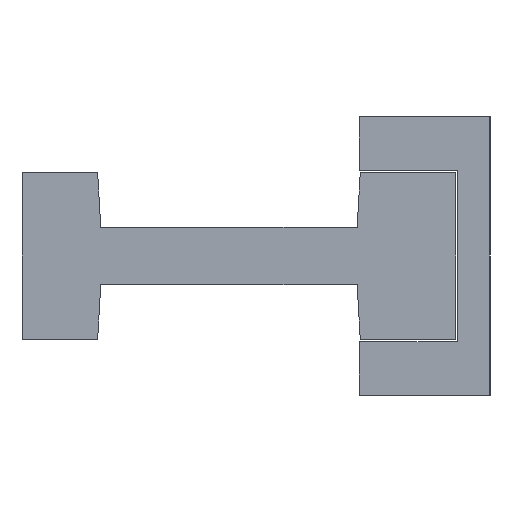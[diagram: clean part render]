
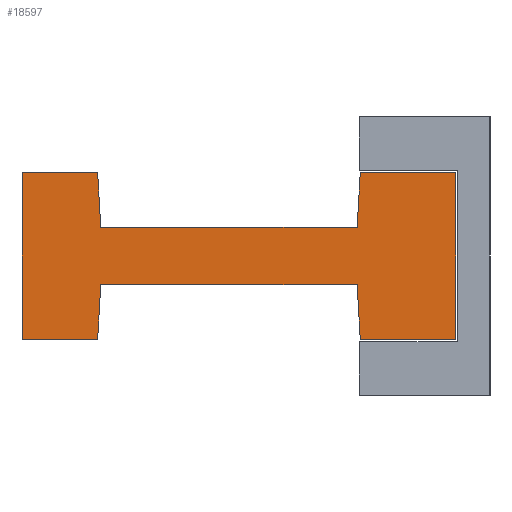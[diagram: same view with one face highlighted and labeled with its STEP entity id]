
A CAD part, left-side view. The second image highlights one B-rep face of the part: STEP entity #18597.
In plain terms, the highlighted planar face has unit normal (-1, 0, 0) as drawn and (0, 0, 1) by its records, which use the part's own axes.
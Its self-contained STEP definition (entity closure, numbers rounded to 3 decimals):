
#180 = VECTOR ( 'NONE', #22760, 1000. ) ;
#450 = CARTESIAN_POINT ( 'NONE',  ( 10.45, 42.5, 241. ) ) ;
#1045 = VECTOR ( 'NONE', #22278, 1000. ) ;
#1435 = VECTOR ( 'NONE', #14599, 1000. ) ;
#1607 = VERTEX_POINT ( 'NONE', #16546 ) ;
#1755 = AXIS2_PLACEMENT_3D ( 'NONE', #1763, #21478, #4585 ) ;
#1763 = CARTESIAN_POINT ( 'NONE',  ( 0., 0., 241. ) ) ;
#1867 = DIRECTION ( 'NONE',  ( 0.998, 0.058, 0. ) ) ;
#4566 = CARTESIAN_POINT ( 'NONE',  ( -10.45, 9.5, 241. ) ) ;
#4585 = DIRECTION ( 'NONE',  ( 1., 0., 0. ) ) ;
#4755 = ORIENTED_EDGE ( 'NONE', *, *, #21133, .T. ) ;
#4800 = CARTESIAN_POINT ( 'NONE',  ( -10.45, 54.5, 241. ) ) ;
#5973 = VECTOR ( 'NONE', #29844, 1000. ) ;
#6332 = LINE ( 'NONE', #29282, #12079 ) ;
#6444 = LINE ( 'NONE', #18743, #28965 ) ;
#7245 = CARTESIAN_POINT ( 'NONE',  ( 10.45, 54.5, 241. ) ) ;
#7483 = CARTESIAN_POINT ( 'NONE',  ( 10.45, 54.5, 241. ) ) ;
#7644 = VERTEX_POINT ( 'NONE', #30035 ) ;
#8410 = VERTEX_POINT ( 'NONE', #32810 ) ;
#8639 = ORIENTED_EDGE ( 'NONE', *, *, #22480, .F. ) ;
#8909 = LINE ( 'NONE', #34332, #1435 ) ;
#9085 = VECTOR ( 'NONE', #24623, 1000. ) ;
#9159 = EDGE_CURVE ( 'NONE', #1607, #8410, #20088, .T. ) ;
#9196 = VERTEX_POINT ( 'NONE', #4566 ) ;
#9834 = VERTEX_POINT ( 'NONE', #450 ) ;
#9886 = PLANE ( 'NONE',  #1755 ) ;
#9963 = VERTEX_POINT ( 'NONE', #27166 ) ;
#10323 = LINE ( 'NONE', #33253, #1045 ) ;
#10810 = CARTESIAN_POINT ( 'NONE',  ( -3.6, 42.1, 241. ) ) ;
#10954 = LINE ( 'NONE', #20062, #19323 ) ;
#12079 = VECTOR ( 'NONE', #32106, 1000. ) ;
#12729 = EDGE_CURVE ( 'NONE', #28800, #9196, #13318, .T. ) ;
#12932 = CARTESIAN_POINT ( 'NONE',  ( 10.45, 0., 241. ) ) ;
#13268 = CARTESIAN_POINT ( 'NONE',  ( -3.6, 9.9, 241. ) ) ;
#13318 = LINE ( 'NONE', #13735, #15059 ) ;
#13495 = VECTOR ( 'NONE', #29834, 1000. ) ;
#13610 = DIRECTION ( 'NONE',  ( 0., 1., 0. ) ) ;
#13657 = ORIENTED_EDGE ( 'NONE', *, *, #16235, .F. ) ;
#13735 = CARTESIAN_POINT ( 'NONE',  ( -10.45, 0., 241. ) ) ;
#14053 = CARTESIAN_POINT ( 'NONE',  ( -10.45, 54.5, 241. ) ) ;
#14599 = DIRECTION ( 'NONE',  ( -0.998, 0.058, 0. ) ) ;
#14921 = ORIENTED_EDGE ( 'NONE', *, *, #17845, .F. ) ;
#15059 = VECTOR ( 'NONE', #33482, 1000. ) ;
#16002 = EDGE_CURVE ( 'NONE', #8410, #20285, #6332, .T. ) ;
#16235 = EDGE_CURVE ( 'NONE', #9196, #26491, #10323, .T. ) ;
#16279 = ORIENTED_EDGE ( 'NONE', *, *, #12729, .F. ) ;
#16338 = EDGE_CURVE ( 'NONE', #28800, #1607, #21768, .T. ) ;
#16498 = ORIENTED_EDGE ( 'NONE', *, *, #21544, .T. ) ;
#16546 = CARTESIAN_POINT ( 'NONE',  ( 10.45, 0., 241. ) ) ;
#17583 = EDGE_CURVE ( 'NONE', #22879, #9963, #8909, .T. ) ;
#17699 = ORIENTED_EDGE ( 'NONE', *, *, #27798, .T. ) ;
#17845 = EDGE_CURVE ( 'NONE', #26491, #22879, #21269, .T. ) ;
#18073 = EDGE_LOOP ( 'NONE', ( #16498, #8639, #25441, #14921, #13657, #16279, #25323, #27507, #35745, #27501, #4755, #17699 ) ) ;
#18597 = ADVANCED_FACE ( 'NONE', ( #22113 ), #9886, .T. ) ;
#18743 = CARTESIAN_POINT ( 'NONE',  ( 3.6, 42.1, 241. ) ) ;
#19323 = VECTOR ( 'NONE', #36444, 1000. ) ;
#20062 = CARTESIAN_POINT ( 'NONE',  ( 3.6, 42.1, 241. ) ) ;
#20088 = LINE ( 'NONE', #12932, #5973 ) ;
#20285 = VERTEX_POINT ( 'NONE', #22037 ) ;
#20957 = VERTEX_POINT ( 'NONE', #34398 ) ;
#21133 = EDGE_CURVE ( 'NONE', #7644, #9834, #6444, .T. ) ;
#21269 = LINE ( 'NONE', #10810, #34477 ) ;
#21478 = DIRECTION ( 'NONE',  ( 0., 0., 1. ) ) ;
#21544 = EDGE_CURVE ( 'NONE', #20957, #31320, #35980, .T. ) ;
#21768 = LINE ( 'NONE', #25484, #180 ) ;
#22037 = CARTESIAN_POINT ( 'NONE',  ( 3.6, 9.9, 241. ) ) ;
#22113 = FACE_OUTER_BOUND ( 'NONE', #18073, .T. ) ;
#22278 = DIRECTION ( 'NONE',  ( 0.998, 0.058, 0. ) ) ;
#22480 = EDGE_CURVE ( 'NONE', #9963, #31320, #35041, .T. ) ;
#22760 = DIRECTION ( 'NONE',  ( 1., 0., 0. ) ) ;
#22879 = VERTEX_POINT ( 'NONE', #34460 ) ;
#24075 = LINE ( 'NONE', #7483, #9085 ) ;
#24623 = DIRECTION ( 'NONE',  ( 0., 1., 0. ) ) ;
#25323 = ORIENTED_EDGE ( 'NONE', *, *, #16338, .T. ) ;
#25395 = CARTESIAN_POINT ( 'NONE',  ( -10.45, 0., 241. ) ) ;
#25441 = ORIENTED_EDGE ( 'NONE', *, *, #17583, .F. ) ;
#25484 = CARTESIAN_POINT ( 'NONE',  ( 0., 0., 241. ) ) ;
#25987 = EDGE_CURVE ( 'NONE', #20285, #7644, #10954, .T. ) ;
#26491 = VERTEX_POINT ( 'NONE', #13268 ) ;
#27166 = CARTESIAN_POINT ( 'NONE',  ( -10.45, 42.5, 241. ) ) ;
#27501 = ORIENTED_EDGE ( 'NONE', *, *, #25987, .T. ) ;
#27507 = ORIENTED_EDGE ( 'NONE', *, *, #9159, .T. ) ;
#27582 = VECTOR ( 'NONE', #31082, 1000. ) ;
#27798 = EDGE_CURVE ( 'NONE', #9834, #20957, #24075, .T. ) ;
#28800 = VERTEX_POINT ( 'NONE', #25395 ) ;
#28965 = VECTOR ( 'NONE', #1867, 1000. ) ;
#29282 = CARTESIAN_POINT ( 'NONE',  ( 3.6, 9.9, 241. ) ) ;
#29834 = DIRECTION ( 'NONE',  ( -1., 0., 0. ) ) ;
#29844 = DIRECTION ( 'NONE',  ( 0., 1., 0. ) ) ;
#30035 = CARTESIAN_POINT ( 'NONE',  ( 3.6, 42.1, 241. ) ) ;
#31082 = DIRECTION ( 'NONE',  ( 0., 1., 0. ) ) ;
#31320 = VERTEX_POINT ( 'NONE', #4800 ) ;
#32106 = DIRECTION ( 'NONE',  ( -0.998, 0.058, 0. ) ) ;
#32810 = CARTESIAN_POINT ( 'NONE',  ( 10.45, 9.5, 241. ) ) ;
#33253 = CARTESIAN_POINT ( 'NONE',  ( -3.6, 9.9, 241. ) ) ;
#33482 = DIRECTION ( 'NONE',  ( 0., 1., 0. ) ) ;
#34332 = CARTESIAN_POINT ( 'NONE',  ( -3.6, 42.1, 241. ) ) ;
#34398 = CARTESIAN_POINT ( 'NONE',  ( 10.45, 54.5, 241. ) ) ;
#34460 = CARTESIAN_POINT ( 'NONE',  ( -3.6, 42.1, 241. ) ) ;
#34477 = VECTOR ( 'NONE', #13610, 1000. ) ;
#35041 = LINE ( 'NONE', #14053, #27582 ) ;
#35745 = ORIENTED_EDGE ( 'NONE', *, *, #16002, .T. ) ;
#35980 = LINE ( 'NONE', #7245, #13495 ) ;
#36444 = DIRECTION ( 'NONE',  ( 0., 1., 0. ) ) ;
